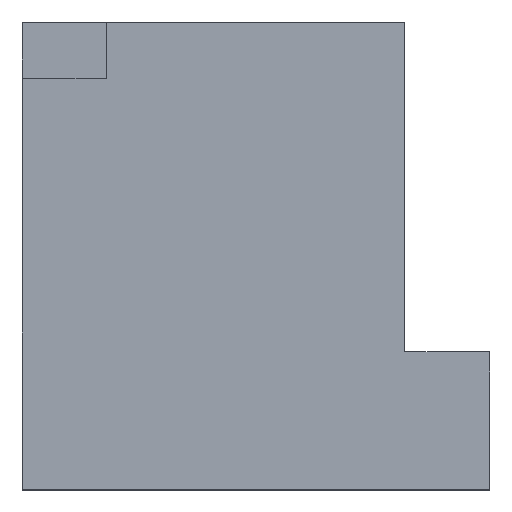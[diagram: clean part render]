
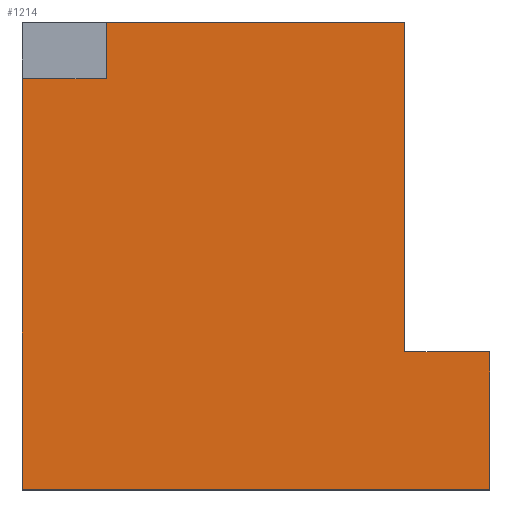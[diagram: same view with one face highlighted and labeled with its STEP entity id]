
A CAD part, top view. The second image highlights one B-rep face of the part: STEP entity #1214.
In plain terms, the highlighted planar face has unit normal (0, 0, 1).
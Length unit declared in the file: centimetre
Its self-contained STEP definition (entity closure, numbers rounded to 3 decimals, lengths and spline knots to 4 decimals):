
#5 = DIRECTION ( 'NONE',  ( -1., 0., 0. ) ) ;
#20 = CARTESIAN_POINT ( 'NONE',  ( 1000., 293.705, 1000. ) ) ;
#97 = VERTEX_POINT ( 'NONE', #1121 ) ;
#102 = ORIENTED_EDGE ( 'NONE', *, *, #298, .T. ) ;
#109 = DIRECTION ( 'NONE',  ( 1., 0., 0. ) ) ;
#124 = CARTESIAN_POINT ( 'NONE',  ( 0., 878.6328, 1000. ) ) ;
#128 = ORIENTED_EDGE ( 'NONE', *, *, #912, .T. ) ;
#165 = VECTOR ( 'NONE', #373, 100. ) ;
#185 = EDGE_LOOP ( 'NONE', ( #128, #201, #1102, #745, #1540, #247, #102, #848 ) ) ;
#189 = VERTEX_POINT ( 'NONE', #446 ) ;
#201 = ORIENTED_EDGE ( 'NONE', *, *, #1403, .T. ) ;
#206 = LINE ( 'NONE', #1262, #1626 ) ;
#235 = DIRECTION ( 'NONE',  ( 0., 1., 0. ) ) ;
#247 = ORIENTED_EDGE ( 'NONE', *, *, #1647, .T. ) ;
#272 = CARTESIAN_POINT ( 'NONE',  ( 818.4946, 293.705, 1000. ) ) ;
#278 = LINE ( 'NONE', #801, #600 ) ;
#298 = EDGE_CURVE ( 'NONE', #1657, #370, #278, .T. ) ;
#313 = LINE ( 'NONE', #20, #1349 ) ;
#368 = LINE ( 'NONE', #1413, #1277 ) ;
#370 = VERTEX_POINT ( 'NONE', #596 ) ;
#373 = DIRECTION ( 'NONE',  ( 0., 1., 0. ) ) ;
#374 = CARTESIAN_POINT ( 'NONE',  ( 0., 1000., 1000. ) ) ;
#421 = DIRECTION ( 'NONE',  ( 0., 1., 0. ) ) ;
#446 = CARTESIAN_POINT ( 'NONE',  ( 818.4946, 1000., 1000. ) ) ;
#507 = LINE ( 'NONE', #124, #931 ) ;
#523 = EDGE_CURVE ( 'NONE', #1390, #97, #368, .T. ) ;
#548 = VECTOR ( 'NONE', #1661, 100. ) ;
#552 = CARTESIAN_POINT ( 'NONE',  ( 0., 0., 1000. ) ) ;
#565 = VERTEX_POINT ( 'NONE', #1166 ) ;
#595 = LINE ( 'NONE', #1512, #548 ) ;
#596 = CARTESIAN_POINT ( 'NONE',  ( 1000., 293.705, 1000. ) ) ;
#600 = VECTOR ( 'NONE', #421, 100. ) ;
#622 = CARTESIAN_POINT ( 'NONE',  ( 1000., 0., 1000. ) ) ;
#712 = EDGE_CURVE ( 'NONE', #565, #1003, #595, .T. ) ;
#745 = ORIENTED_EDGE ( 'NONE', *, *, #839, .F. ) ;
#756 = CARTESIAN_POINT ( 'NONE',  ( 179.651, 878.6328, 1000. ) ) ;
#801 = CARTESIAN_POINT ( 'NONE',  ( 1000., 1000., 1000. ) ) ;
#807 = DIRECTION ( 'NONE',  ( 1., 0., 0. ) ) ;
#815 = DIRECTION ( 'NONE',  ( 0., 0., 1. ) ) ;
#839 = EDGE_CURVE ( 'NONE', #565, #1390, #507, .T. ) ;
#848 = ORIENTED_EDGE ( 'NONE', *, *, #1173, .F. ) ;
#912 = EDGE_CURVE ( 'NONE', #1624, #189, #925, .T. ) ;
#925 = LINE ( 'NONE', #272, #165 ) ;
#931 = VECTOR ( 'NONE', #109, 100. ) ;
#942 = CARTESIAN_POINT ( 'NONE',  ( 0., 0., 1000. ) ) ;
#1003 = VERTEX_POINT ( 'NONE', #552 ) ;
#1076 = PLANE ( 'NONE',  #1219 ) ;
#1086 = DIRECTION ( 'NONE',  ( 1., 0., 0. ) ) ;
#1102 = ORIENTED_EDGE ( 'NONE', *, *, #523, .F. ) ;
#1105 = VECTOR ( 'NONE', #5, 100. ) ;
#1121 = CARTESIAN_POINT ( 'NONE',  ( 179.651, 1000., 1000. ) ) ;
#1166 = CARTESIAN_POINT ( 'NONE',  ( 0., 878.6328, 1000. ) ) ;
#1173 = EDGE_CURVE ( 'NONE', #1624, #370, #313, .T. ) ;
#1214 = ADVANCED_FACE ( 'NONE', ( #1226 ), #1076, .T. ) ;
#1219 = AXIS2_PLACEMENT_3D ( 'NONE', #942, #815, #1086 ) ;
#1226 = FACE_OUTER_BOUND ( 'NONE', #185, .T. ) ;
#1256 = DIRECTION ( 'NONE',  ( 1., 0., 0. ) ) ;
#1262 = CARTESIAN_POINT ( 'NONE',  ( 0., 0., 1000. ) ) ;
#1277 = VECTOR ( 'NONE', #235, 100. ) ;
#1349 = VECTOR ( 'NONE', #807, 100. ) ;
#1390 = VERTEX_POINT ( 'NONE', #756 ) ;
#1403 = EDGE_CURVE ( 'NONE', #189, #97, #1694, .T. ) ;
#1413 = CARTESIAN_POINT ( 'NONE',  ( 179.651, 878.6328, 1000. ) ) ;
#1512 = CARTESIAN_POINT ( 'NONE',  ( 0., 1000., 1000. ) ) ;
#1517 = CARTESIAN_POINT ( 'NONE',  ( 818.4946, 293.705, 1000. ) ) ;
#1540 = ORIENTED_EDGE ( 'NONE', *, *, #712, .T. ) ;
#1624 = VERTEX_POINT ( 'NONE', #1517 ) ;
#1626 = VECTOR ( 'NONE', #1256, 100. ) ;
#1647 = EDGE_CURVE ( 'NONE', #1003, #1657, #206, .T. ) ;
#1657 = VERTEX_POINT ( 'NONE', #622 ) ;
#1661 = DIRECTION ( 'NONE',  ( 0., -1., 0. ) ) ;
#1694 = LINE ( 'NONE', #374, #1105 ) ;
